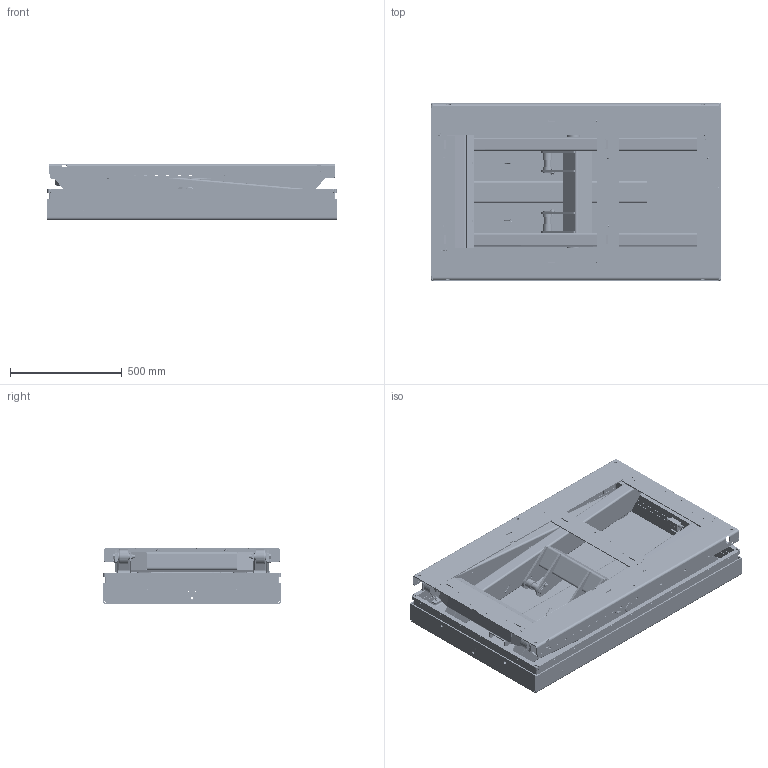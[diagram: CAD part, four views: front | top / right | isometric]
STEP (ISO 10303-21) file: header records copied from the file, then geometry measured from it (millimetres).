
FILE_DESCRIPTION(/* description */ ('Split Pin'),/* implementation_level */ '2;1');
FILE_NAME(/* name */ 'C:\Autodesk_VaultWork\Ritningar\Exporterade modeller\TL 3000 - (33560)\33560_botten.stp',/* time_stamp */ '2015-06-23T08:12:41+02:00',/* author */ ('HANVI'),/* organization */ (''),/* preprocessor_version */ 'ST-DEVELOPER v15.6',/* originating_system */ 'Autodesk Inventor 2015',/* authorisation */ '');
FILE_SCHEMA (('AUTOMOTIVE_DESIGN { 1 0 10303 214 3 1 1 }'));
Products named in the file (76): DIN EN ISO 1234 - 4x33 x 25 x 20; 83210; 83243; ISO 10511 - M14; ISO 4016 - M14 x 90; 36364; 35430; 44870; 45259; 36363-2; 36363-1; 33561; 33562-1; 45387; ISO 4014 - M8 x 40ISO; 41333-820; 33562-2; ISO 4032 - M16ISO; 33562; 80040-1230; 33566; 80060-368; 43013; 43030; 43031; 44249; 33563; 80040-1230_1; 33567; 610978; 611121; 611122; 43254; 43867C-TL2000; 33564; 42508C; 42509; 70025; 33048; 43216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
Bounding box: 1300 x 800.2 x 251 mm (x, y, z)
Volume: 25379517.2 mm3; surface area: 10538220.7 mm2
Topology: 182 solids, 182 shells, 7262 faces, 18087 edges, 11328 vertices
Faces by surface type: plane 2934, cylinder 2147, cone 1149, bspline 502, torus 482, sphere 48
Full cylindrical faces by diameter (mm): 0.474 x2, 1 x4, 2.459 x8, 3 x4, 3.141 x4, 3.2 x4, 3.242 x4, 4 x14, 4.3 x4, 4.9 x2, 5 x8, 5.2 x6, 5.3 x4, 5.55 x6, 6.8 x6, 7.4 x12, 7.5 x4, 7.6 x4, 8 x16, 8.5 x4, 10 x6, 10.5 x8, 11 x2, 11.63 x8, 12 x4, 12.5 x6, 13 x6, 13.835 x1, 14 x8, 14.2 x16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
Entity records: 99963 total; most frequent: CARTESIAN_POINT 24707, DIRECTION 15263, ORIENTED_EDGE 15202, EDGE_CURVE 7600, AXIS2_PLACEMENT_3D 5348, VERTEX_POINT 5011, LINE 4567, VECTOR 4567
